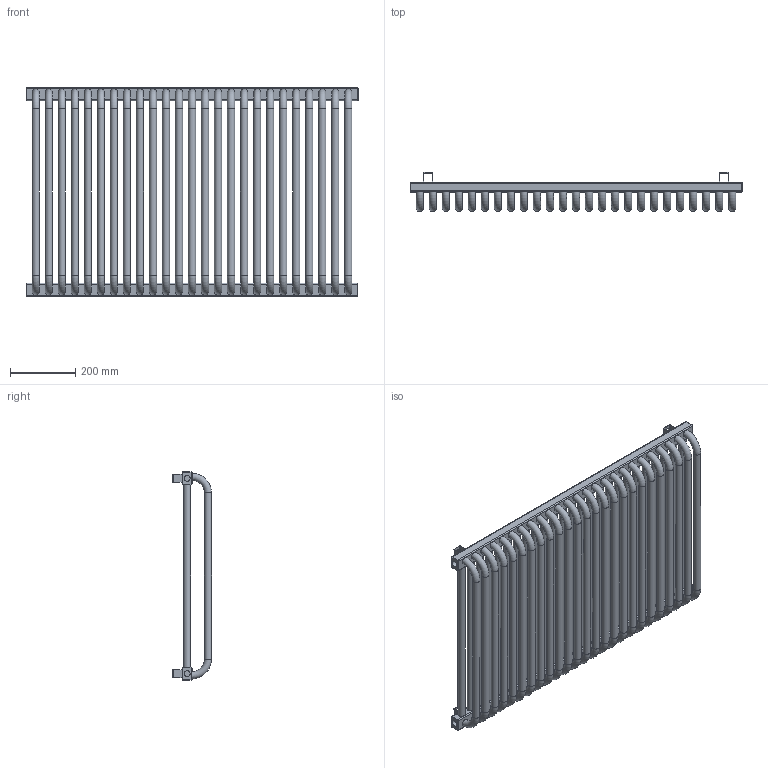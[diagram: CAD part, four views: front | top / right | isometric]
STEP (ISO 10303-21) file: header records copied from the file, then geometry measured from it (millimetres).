
FILE_DESCRIPTION((''),'2;1');
FILE_NAME('Z:\R\G\P\RGPH03 - Grzejnik Dobus\Work\Inventor\Marketing\STEP\DF-64-10-L6.stp','2012-07-25T11:40:05',('PioRo'),(''),'Autodesk Inventor 2012','Autodesk Inventor 2012','');
FILE_SCHEMA(('CONFIG_CONTROL_DESIGN'));
Length unit declared in the file: millimetre
Products named in the file (1): Część1
Bounding box: 1020 x 120 x 640 mm (x, y, z)
Volume: 14077602.4 mm3; surface area: 2377264.7 mm2
Topology: 5 solids, 5 shells, 250 faces, 623 edges, 388 vertices
Faces by surface type: cylinder 105, plane 79, torus 66
Full cylindrical faces by diameter (mm): 0.1 x4, 18.631 x3, 22 x50
Entity records: 10513 total; most frequent: CARTESIAN_POINT 4405, DIRECTION 1194, ORIENTED_EDGE 1032, EDGE_CURVE 516, AXIS2_PLACEMENT_3D 477, EDGE_LOOP 468, VERTEX_POINT 388, FACE_OUTER_BOUND 250
